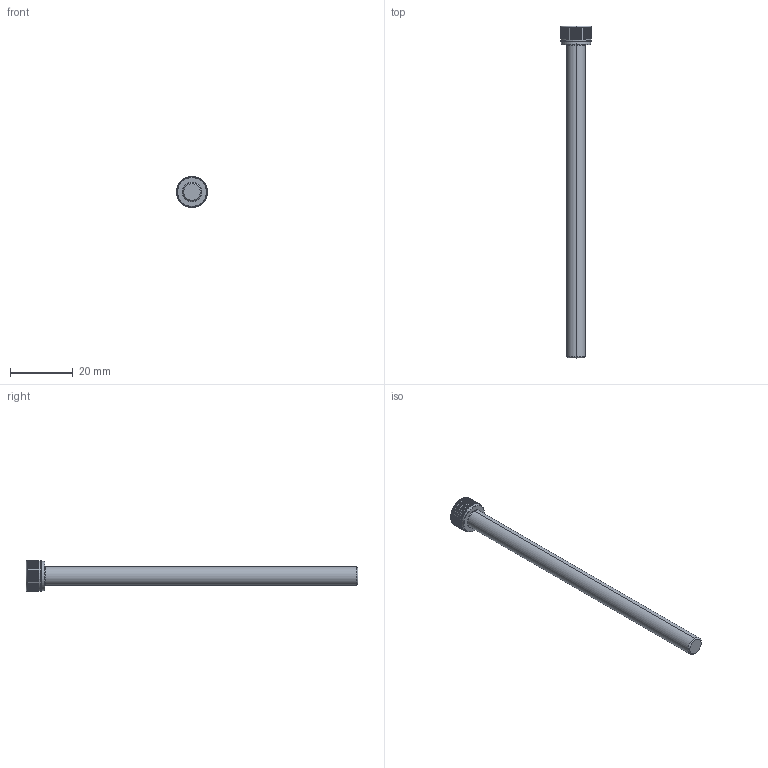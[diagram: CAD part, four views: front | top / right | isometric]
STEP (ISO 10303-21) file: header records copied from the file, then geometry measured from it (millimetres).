
FILE_DESCRIPTION (( 'STEP AP203' ), '1' );
FILE_NAME ('LGDT-304-M6x100.STEP', '2026-08-10T04:59:48', ( '' ), ( '' ), 'SwSTEP 2.0', 'SolidWorks 2020', '' );
FILE_SCHEMA (( 'CONFIG_CONTROL_DESIGN' ));
Length unit declared in the file: millimetre
Products named in the file (1): LGDT-304-M6x100
Bounding box: 9.8 x 106 x 9.8 mm (x, y, z)
Volume: 3194.1 mm3; surface area: 2262.7 mm2
Topology: 1 solids, 1 shells, 204 faces, 576 edges, 376 vertices
Faces by surface type: cylinder 175, cone 11, plane 10, torus 8
Entity records: 8367 total; most frequent: CARTESIAN_POINT 3208, ORIENTED_EDGE 1152, DIRECTION 988, EDGE_CURVE 576, AXIS2_PLACEMENT_3D 398, VERTEX_POINT 376, EDGE_LOOP 206, FACE_OUTER_BOUND 204
